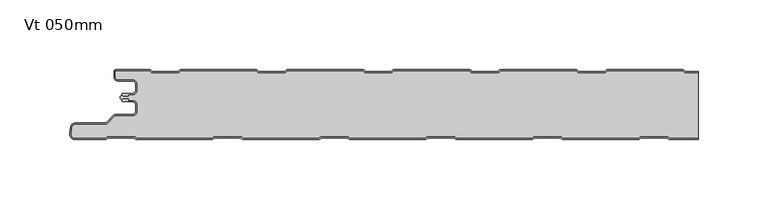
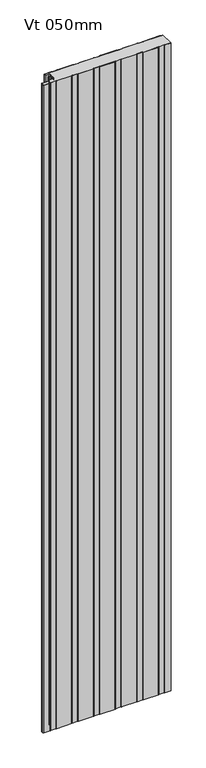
"""IFC4 building model written with IfcOpenShell, lengths in millimetres: plate geometry, KIP-MEX-KSS-1067-R19-CP-Vt-SL_SL : Vt 050mm."""

from ifc_helpers import new_model, si_unit, point, frame, frame_2d, origin, origin_with_axes, place, context, project, spatial, polyline, circle_curve, trimmed, segment, composite_curve, outline, extrude, source, transform, mapped, element, save
from ifc_brep_helpers import plane_surface, cylinder_surface, revolved_surface, advanced_brep


def vt_050mm_9e8c6ad0(model_context):
    return source(origin(), model_context, "Body", "SolidModel", [
        extrude(outline(composite_curve([segment(polyline([(-205.4683, -21.670875), (-206.4999998, -20.6391751), (-206.4999998, -19.0328392), (-205.4686882, -18.0015275)]), True, "CONTINUOUS"), segment(trimmed(circle_curve(frame_2d((-204.468691, -18.0015216)), 0.9999972), [point((-205.4686882, -18.0015275))], [point((-204.468691, -19.0015188))], True, "CARTESIAN"), True, "CONTINUOUS"), segment(polyline([(-204.468691, -19.0015188), (-200.4684873, -19.0015188), (-200.4684873, -18.0015243), (-197.7762775, -18.0015243)]), True, "CONTINUOUS"), segment(trimmed(circle_curve(frame_2d((-197.7762775, -14.7015286)), 3.2999957), [point((-197.7762775, -18.0015243))], [point((-194.4762818, -14.7015286))], True, "CARTESIAN"), True, "CONTINUOUS"), segment(polyline([(-194.4762818, -14.7015286), (-194.4762818, -10.3015374)]), True, "CONTINUOUS"), segment(trimmed(circle_curve(frame_2d((-197.7762777, -10.3015374)), 3.2999959), [point((-194.4762818, -10.3015374))], [point((-197.7762777, -7.0015415))], True, "CARTESIAN"), True, "CONTINUOUS"), segment(polyline([(-197.7762777, -7.0015415), (-208.1962562, -7.0015415)]), True, "CONTINUOUS"), segment(trimmed(circle_curve(frame_2d((-208.1962562, -5.2315473)), 1.7699942), [point((-208.1962562, -7.0015415))], [point((-209.9662504, -5.2315473))], False, "CARTESIAN"), True, "CONTINUOUS"), segment(polyline([(-209.9662504, -5.2315473), (-209.9662504, -1.0), (-185.4659738, -1.0), (-184.0803312, -2.2002391), (-164.7051649, -2.2002391), (-163.3195319, -1.0000084), (-109.2661165, -1.0000084), (-107.8804836, -2.2002391), (-88.5053173, -2.2002391), (-87.1196843, -1.0000084), (-33.0662689, -1.0000084), (-31.680636, -2.2002391), (-12.3054697, -2.2002391), (-10.9198367, -1.0000084), (43.1335787, -1.0000084), (44.5192116, -2.2002391), (63.8943779, -2.2002391), (65.2800109, -1.0000084), (119.3334263, -1.0000084), (120.7190592, -2.2002391), (140.0942255, -2.2002391), (141.4798585, -1.0000084), (195.5332739, -1.0000084), (196.9189068, -2.2002391), (206.4999998, -2.2002391), (206.4999998, -48.9948589), (186.1405442, -48.9948589), (184.9403135, -47.7946282), (165.220901, -47.7946282), (164.0206703, -48.9948589), (109.9405385, -48.9948589), (108.7403078, -47.7946282), (89.0208953, -47.7946282), (87.8206646, -48.9948589), (33.7405328, -48.9948589), (32.5403021, -47.7946282), (12.8208896, -47.7946282), (11.6206589, -48.9948589), (-42.4594729, -48.9948589), (-43.6597036, -47.7946282), (-63.3791161, -47.7946282), (-64.5793468, -48.9948589), (-118.6594786, -48.9948589), (-119.8597093, -47.7946282), (-139.5791218, -47.7946282), (-140.7793525, -48.9948589), (-194.8594843, -48.9948589), (-196.059715, -47.7946282), (-215.7791275, -47.7946282), (-216.979096, -48.9945967), (-238.9521175, -48.9945967)]), True, "CONTINUOUS"), segment(trimmed(circle_curve(frame_2d((-238.9521175, -46.4243575)), 2.5702393), [point((-238.9521175, -48.9945967))], [point((-241.5125697, -46.2002718))], False, "CARTESIAN"), True, "CONTINUOUS"), segment(polyline([(-241.5125697, -46.2002718), (-241.0765707, -41.2184509)]), True, "CONTINUOUS"), segment(trimmed(circle_curve(frame_2d((-238.4198391, -41.6998415)), 2.6999926), [point((-241.0765707, -41.2184509))], [point((-238.4198391, -38.9998489))], False, "CARTESIAN"), True, "CONTINUOUS"), segment(polyline([(-238.4198391, -38.9998489), (-216.3247094, -38.9998489), (-210.8226383, -33.4977778)]), True, "CONTINUOUS"), segment(trimmed(circle_curve(frame_2d((-209.6205606, -34.6998555)), 1.6999946), [point((-210.8226383, -33.4977778))], [point((-209.6205606, -32.9998609))], False, "CARTESIAN"), True, "CONTINUOUS"), segment(polyline([(-209.6205606, -32.9998609), (-197.8096715, -32.9998609)]), True, "CONTINUOUS"), segment(trimmed(circle_curve(frame_2d((-197.8096715, -29.6498656)), 3.3499953), [point((-197.8096715, -32.9998609))], [point((-194.4596762, -29.6498656))], True, "CARTESIAN"), True, "CONTINUOUS"), segment(polyline([(-194.4596762, -29.6498656), (-194.4596762, -25.2498744)]), True, "CONTINUOUS"), segment(trimmed(circle_curve(frame_2d((-197.8096715, -25.2498744)), 3.3499953), [point((-194.4596762, -25.2498744))], [point((-197.8096715, -21.8998791))], True, "CARTESIAN"), True, "CONTINUOUS"), segment(polyline([(-197.8096715, -21.8998791), (-200.5087826, -21.8998791), (-200.5087826, -20.5014003), (-204.267176, -20.5014003)]), True, "CONTINUOUS"), segment(trimmed(circle_curve(frame_2d((-204.2686906, -21.7013969)), 1.1999976), [point((-204.267176, -20.5014003))], [point((-205.4683, -21.670875))], True, "CARTESIAN"), True, "CONTINUOUS")], self_intersect=False)), origin_with_axes(), (0.0, 0.0, 1.0), 2400.0),
        advanced_brep(
        [(-204.468691, -17.0015159, 2400.0), (-205.4686883, -18.0015191, 2400.0), (-204.468691, -19.0015105, 2400.0), (-200.4684874, -19.0015105, 2400.0), (-200.4684874, -18.0015159, 2400.0), (-197.7762776, -18.0015159, 2400.0), (-194.4762819, -14.7015202, 2400.0), (-194.4762819, -10.301529, 2400.0), (-197.7762774, -7.0015335, 2400.0), (-208.1962563, -7.0015335, 2400.0), (-209.9662505, -5.2315393, 2400.0), (-209.9662505, -0.9999916, 2400.0), (-185.4659738, -0.9999916, 2400.0), (-184.0803312, -2.2002307, 2400.0), (-164.7051649, -2.2002307, 2400.0), (-163.319532, -1.0, 2400.0), (-109.2661166, -1.0, 2400.0), (-107.8804836, -2.2002307, 2400.0), (-88.5053173, -2.2002307, 2400.0), (-87.1196844, -1.0, 2400.0), (-33.066269, -1.0, 2400.0), (-31.680636, -2.2002307, 2400.0), (-12.3054697, -2.2002307, 2400.0), (-10.9198368, -1.0, 2400.0), (43.1335786, -1.0, 2400.0), (44.5192116, -2.2002307, 2400.0), (63.8943779, -2.2002307, 2400.0), (65.2800108, -1.0, 2400.0), (119.3334262, -1.0, 2400.0), (120.7190592, -2.2002307, 2400.0), (140.0942255, -2.2002307, 2400.0), (141.4798584, -1.0, 2400.0), (195.5332738, -1.0, 2400.0), (196.9189068, -2.2002307, 2400.0), (206.4999998, -2.2002307, 2400.0), (206.4999998, -1.2002307, 2400.0), (197.2917872, -1.2002307, 2400.0), (196.3007396, -0.3417885, 2400.0), (195.3841227, 0.0, 2400.0), (141.6290096, 0.0, 2400.0), (140.7123927, -0.3417885, 2400.0), (139.7213451, -1.2002307, 2400.0), (121.0919396, -1.2002307, 2400.0), (120.100892, -0.3417885, 2400.0), (119.1842751, 0.0, 2400.0), (65.429162, 0.0, 2400.0), (64.5125451, -0.3417885, 2400.0), (63.5214975, -1.2002307, 2400.0), (44.892092, -1.2002307, 2400.0), (43.9010444, -0.3417885, 2400.0), (42.9844275, 0.0, 2400.0), (-10.7706856, 0.0, 2400.0), (-11.6873025, -0.3417885, 2400.0), (-12.6783501, -1.2002307, 2400.0), (-31.3077556, -1.2002307, 2400.0), (-32.2988032, -0.3417885, 2400.0), (-33.2154201, 0.0, 2400.0), (-86.9705332, 0.0, 2400.0), (-87.8871501, -0.3417885, 2400.0), (-88.8781977, -1.2002307, 2400.0), (-107.5076032, -1.2002307, 2400.0), (-108.4986508, -0.3417885, 2400.0), (-109.4152677, 0.0, 2400.0), (-163.1703808, 0.0, 2400.0), (-164.0869977, -0.3417885, 2400.0), (-165.0780453, -1.2002307, 2400.0), (-183.7074508, -1.2002307, 2400.0), (-184.6984984, -0.3417885, 2400.0), (-185.6152067, 0.0, 2400.0), (-209.5662543, 8.4e-06, 2400.0), (-210.9662505, -1.3999878, 2400.0), (-210.9662505, -5.2315393, 2400.0), (-208.1962563, -8.0015335, 2400.0), (-197.7762774, -8.0015335, 2400.0), (-195.4762819, -10.301529, 2400.0), (-195.4762819, -14.7015202, 2400.0), (-197.7762776, -17.0015159, 2400.0), (-204.468691, -17.0015159, 0.0), (-197.7762776, -17.0015159, 0.0), (-195.4762819, -14.7015202, 0.0), (-195.4762819, -10.301529, 0.0), (-197.7762774, -8.0015335, 0.0), (-208.1962563, -8.0015335, 0.0), (-210.9662505, -5.2315393, 0.0), (-210.9662505, -1.3999878, 0.0), (-209.5662543, 8.4e-06, 0.0), (-185.6151153, 8.4e-06, 0.0), (-184.6984984, -0.3417885, 0.0), (-183.7074508, -1.2002307, 0.0), (-165.0780453, -1.2002307, 0.0), (-164.0869977, -0.3417885, 0.0), (-163.1703808, 0.0, 0.0), (-109.4152677, 0.0, 0.0), (-108.4986508, -0.3417885, 0.0), (-107.5076032, -1.2002307, 0.0), (-88.8781977, -1.2002307, 0.0), (-87.8871501, -0.3417885, 0.0), (-86.9705332, 0.0, 0.0), (-33.2154201, 0.0, 0.0), (-32.2988032, -0.3417885, 0.0), (-31.3077556, -1.2002307, 0.0), (-12.6783501, -1.2002307, 0.0), (-11.6873025, -0.3417885, 0.0), (-10.7706856, 0.0, 0.0), (42.9844275, 0.0, 0.0), (43.9010444, -0.3417885, 0.0), (44.892092, -1.2002307, 0.0), (63.5214975, -1.2002307, 0.0), (64.5125451, -0.3417885, 0.0), (65.429162, 0.0, 0.0), (119.1842751, 0.0, 0.0), (120.100892, -0.3417885, 0.0), (121.0919396, -1.2002307, 0.0), (139.7213451, -1.2002307, 0.0), (140.7123927, -0.3417885, 0.0), (141.6290096, 0.0, 0.0), (195.3841227, 0.0, 0.0), (196.3007396, -0.3417885, 0.0), (197.2917872, -1.2002307, 0.0), (206.4999998, -1.2002307, 0.0), (206.4999998, -2.2002307, 0.0), (196.9189068, -2.2002307, 0.0), (195.5332738, -1.0, 0.0), (141.4798584, -1.0, 0.0), (140.0942255, -2.2002307, 0.0), (120.7190592, -2.2002307, 0.0), (119.3334262, -1.0, 0.0), (65.2800108, -1.0, 0.0), (63.8943779, -2.2002307, 0.0), (44.5192116, -2.2002307, 0.0), (43.1335786, -1.0, 0.0), (-10.9198368, -1.0, 0.0), (-12.3054697, -2.2002307, 0.0), (-31.680636, -2.2002307, 0.0), (-33.066269, -1.0, 0.0), (-87.1196844, -1.0, 0.0), (-88.5053173, -2.2002307, 0.0), (-107.8804836, -2.2002307, 0.0), (-109.2661166, -1.0, 0.0), (-163.319532, -1.0, 0.0), (-164.7051649, -2.2002307, 0.0), (-184.0803312, -2.2002307, 0.0), (-185.4659738, -0.9999916, 0.0), (-209.9662505, -0.9999916, 0.0), (-209.9662505, -5.2315393, 0.0), (-208.1962563, -7.0015335, 0.0), (-197.7762774, -7.0015335, 0.0), (-194.4762819, -10.301529, 0.0), (-194.4762819, -14.7015202, 0.0), (-197.7762776, -18.0015159, 0.0), (-200.4684874, -18.0015159, 0.0), (-200.4684874, -19.0015105, 0.0), (-204.468691, -19.0015105, 0.0), (-205.4686882, -18.0015192, 0.0)],
        [
            (0, 1, circle_curve(frame((-204.468691, -18.0015132, 2400.0), z_axis=(0.0, 0.0, 1.0), x_axis=(1.0, 0.0, 0.0)), 0.9999973)),
            (1, 2, circle_curve(frame((-204.468691, -18.0015133, 2400.0), z_axis=(0.0, 0.0, 1.0), x_axis=(1.0, 0.0, 0.0)), 0.9999972)),
            (2, 3),
            (3, 4),
            (4, 5),
            (5, 6, circle_curve(frame((-197.7762776, -14.7015202, 2400.0), z_axis=(0.0, 0.0, 1.0), x_axis=(1.0, 0.0, 0.0)), 3.2999957)),
            (6, 7),
            (7, 8, circle_curve(frame((-197.7762774, -10.301529, 2400.0), z_axis=(0.0, 0.0, 1.0), x_axis=(1.0, 0.0, 0.0)), 3.2999955)),
            (8, 9),
            (9, 10, circle_curve(frame((-208.1962563, -5.2315393, 2400.0), z_axis=(0.0, 0.0, -1.0), x_axis=(1.0, 0.0, 0.0)), 1.7699942)),
            (10, 11),
            (11, 12),
            (12, 13),
            (13, 14),
            (14, 15),
            (15, 16),
            (16, 17),
            (17, 18),
            (18, 19),
            (19, 20),
            (20, 21),
            (21, 22),
            (22, 23),
            (23, 24),
            (24, 25),
            (25, 26),
            (26, 27),
            (27, 28),
            (28, 29),
            (29, 30),
            (30, 31),
            (31, 32),
            (32, 33),
            (33, 34),
            (34, 35),
            (35, 36),
            (36, 37),
            (37, 38, circle_curve(frame((195.3841227, -1.3999972, 2400.0), z_axis=(0.0, 0.0, 1.0), x_axis=(1.0, 0.0, 0.0)), 1.3999972)),
            (38, 39),
            (39, 40, circle_curve(frame((141.6290096, -1.3999972, 2400.0), z_axis=(0.0, 0.0, 1.0), x_axis=(1.0, 0.0, 0.0)), 1.3999972)),
            (40, 41),
            (41, 42),
            (42, 43),
            (43, 44, circle_curve(frame((119.1842751, -1.3999972, 2400.0), z_axis=(0.0, 0.0, 1.0), x_axis=(1.0, 0.0, 0.0)), 1.3999972)),
            (44, 45),
            (45, 46, circle_curve(frame((65.429162, -1.3999972, 2400.0), z_axis=(0.0, 0.0, 1.0), x_axis=(1.0, 0.0, 0.0)), 1.3999972)),
            (46, 47),
            (47, 48),
            (48, 49),
            (49, 50, circle_curve(frame((42.9844275, -1.3999972, 2400.0), z_axis=(0.0, 0.0, 1.0), x_axis=(1.0, 0.0, 0.0)), 1.3999972)),
            (50, 51),
            (51, 52, circle_curve(frame((-10.7706856, -1.3999972, 2400.0), z_axis=(0.0, 0.0, 1.0), x_axis=(1.0, 0.0, 0.0)), 1.3999972)),
            (52, 53),
            (53, 54),
            (54, 55),
            (55, 56, circle_curve(frame((-33.2154201, -1.3999972, 2400.0), z_axis=(0.0, 0.0, 1.0), x_axis=(1.0, 0.0, 0.0)), 1.3999972)),
            (56, 57),
            (57, 58, circle_curve(frame((-86.9705332, -1.3999972, 2400.0), z_axis=(0.0, 0.0, 1.0), x_axis=(1.0, 0.0, 0.0)), 1.3999972)),
            (58, 59),
            (59, 60),
            (60, 61),
            (61, 62, circle_curve(frame((-109.4152677, -1.3999972, 2400.0), z_axis=(0.0, 0.0, 1.0), x_axis=(1.0, 0.0, 0.0)), 1.3999972)),
            (62, 63),
            (63, 64, circle_curve(frame((-163.1703808, -1.3999972, 2400.0), z_axis=(0.0, 0.0, 1.0), x_axis=(1.0, 0.0, 0.0)), 1.3999972)),
            (64, 65),
            (65, 66),
            (66, 67),
            (67, 68, circle_curve(frame((-185.6151153, -1.3999972, 2400.0), z_axis=(0.0, 0.0, 1.0), x_axis=(1.0, 0.0, 0.0)), 1.3999972)),
            (68, 69),
            (69, 70, circle_curve(frame((-209.5662543, -1.3999878, 2400.0), z_axis=(0.0, 0.0, 1.0), x_axis=(1.0, 0.0, 0.0)), 1.3999962)),
            (70, 71),
            (71, 72, circle_curve(frame((-208.1962563, -5.2315393, 2400.0), z_axis=(0.0, 0.0, 1.0), x_axis=(1.0, 0.0, 0.0)), 2.7699942)),
            (72, 73),
            (73, 74, circle_curve(frame((-197.7762774, -10.301529, 2400.0), z_axis=(0.0, 0.0, -1.0), x_axis=(1.0, 0.0, 0.0)), 2.2999955)),
            (74, 75),
            (75, 76, circle_curve(frame((-197.7762776, -14.7015202, 2400.0), z_axis=(0.0, 0.0, -1.0), x_axis=(1.0, 0.0, 0.0)), 2.2999957)),
            (76, 0),
            (77, 78),
            (78, 79, circle_curve(frame((-197.7762776, -14.7015202, 0.0), z_axis=(0.0, 0.0, 1.0), x_axis=(1.0, 0.0, 0.0)), 2.2999957)),
            (79, 80),
            (80, 81, circle_curve(frame((-197.7762774, -10.301529, 0.0), z_axis=(0.0, 0.0, 1.0), x_axis=(1.0, 0.0, 0.0)), 2.2999955)),
            (81, 82),
            (82, 83, circle_curve(frame((-208.1962563, -5.2315393, 0.0), z_axis=(0.0, 0.0, -1.0), x_axis=(1.0, 0.0, 0.0)), 2.7699942)),
            (83, 84),
            (84, 85, circle_curve(frame((-209.5662543, -1.3999878, 0.0), z_axis=(0.0, 0.0, -1.0), x_axis=(1.0, 0.0, 0.0)), 1.3999962)),
            (85, 86),
            (86, 87, circle_curve(frame((-185.6151153, -1.3999972, 0.0), z_axis=(0.0, 0.0, -1.0), x_axis=(1.0, 0.0, 0.0)), 1.3999972)),
            (87, 88),
            (88, 89),
            (89, 90),
            (90, 91, circle_curve(frame((-163.1703808, -1.3999972, 0.0), z_axis=(0.0, 0.0, -1.0), x_axis=(1.0, 0.0, 0.0)), 1.3999972)),
            (91, 92),
            (92, 93, circle_curve(frame((-109.4152677, -1.3999972, 0.0), z_axis=(0.0, 0.0, -1.0), x_axis=(1.0, 0.0, 0.0)), 1.3999972)),
            (93, 94),
            (94, 95),
            (95, 96),
            (96, 97, circle_curve(frame((-86.9705332, -1.3999972, 0.0), z_axis=(0.0, 0.0, -1.0), x_axis=(1.0, 0.0, 0.0)), 1.3999972)),
            (97, 98),
            (98, 99, circle_curve(frame((-33.2154201, -1.3999972, 0.0), z_axis=(0.0, 0.0, -1.0), x_axis=(1.0, 0.0, 0.0)), 1.3999972)),
            (99, 100),
            (100, 101),
            (101, 102),
            (102, 103, circle_curve(frame((-10.7706856, -1.3999972, 0.0), z_axis=(0.0, 0.0, -1.0), x_axis=(1.0, 0.0, 0.0)), 1.3999972)),
            (103, 104),
            (104, 105, circle_curve(frame((42.9844275, -1.3999972, 0.0), z_axis=(0.0, 0.0, -1.0), x_axis=(1.0, 0.0, 0.0)), 1.3999972)),
            (105, 106),
            (106, 107),
            (107, 108),
            (108, 109, circle_curve(frame((65.429162, -1.3999972, 0.0), z_axis=(0.0, 0.0, -1.0), x_axis=(1.0, 0.0, 0.0)), 1.3999972)),
            (109, 110),
            (110, 111, circle_curve(frame((119.1842751, -1.3999972, 0.0), z_axis=(0.0, 0.0, -1.0), x_axis=(1.0, 0.0, 0.0)), 1.3999972)),
            (111, 112),
            (112, 113),
            (113, 114),
            (114, 115, circle_curve(frame((141.6290096, -1.3999972, 0.0), z_axis=(0.0, 0.0, -1.0), x_axis=(1.0, 0.0, 0.0)), 1.3999972)),
            (115, 116),
            (116, 117, circle_curve(frame((195.3841227, -1.3999972, 0.0), z_axis=(0.0, 0.0, -1.0), x_axis=(1.0, 0.0, 0.0)), 1.3999972)),
            (117, 118),
            (118, 119),
            (119, 120),
            (120, 121),
            (121, 122),
            (122, 123),
            (123, 124),
            (124, 125),
            (125, 126),
            (126, 127),
            (127, 128),
            (128, 129),
            (129, 130),
            (130, 131),
            (131, 132),
            (132, 133),
            (133, 134),
            (134, 135),
            (135, 136),
            (136, 137),
            (137, 138),
            (138, 139),
            (139, 140),
            (140, 141),
            (141, 142),
            (142, 143),
            (143, 144),
            (144, 145, circle_curve(frame((-208.1962563, -5.2315393, 0.0), z_axis=(0.0, 0.0, 1.0), x_axis=(1.0, 0.0, 0.0)), 1.7699942)),
            (145, 146),
            (146, 147, circle_curve(frame((-197.7762774, -10.301529, 0.0), z_axis=(0.0, 0.0, -1.0), x_axis=(1.0, 0.0, 0.0)), 3.2999955)),
            (147, 148),
            (148, 149, circle_curve(frame((-197.7762776, -14.7015202, 0.0), z_axis=(0.0, 0.0, -1.0), x_axis=(1.0, 0.0, 0.0)), 3.2999957)),
            (149, 150),
            (150, 151),
            (151, 152),
            (152, 153, circle_curve(frame((-204.468691, -18.0015133, 0.0), z_axis=(0.0, 0.0, -1.0), x_axis=(1.0, 0.0, 0.0)), 0.9999972)),
            (153, 77, circle_curve(frame((-204.468691, -18.0015132, 0.0), z_axis=(0.0, 0.0, -1.0), x_axis=(1.0, 0.0, 0.0)), 0.9999973)),
            (76, 78),
            (77, 0),
            (75, 79),
            (74, 80),
            (73, 81),
            (72, 82),
            (71, 83),
            (70, 84),
            (69, 85),
            (68, 86),
            (67, 87),
            (66, 88),
            (65, 89),
            (64, 90),
            (63, 91),
            (62, 92),
            (61, 93),
            (60, 94),
            (59, 95),
            (58, 96),
            (57, 97),
            (56, 98),
            (55, 99),
            (54, 100),
            (53, 101),
            (52, 102),
            (51, 103),
            (50, 104),
            (49, 105),
            (48, 106),
            (47, 107),
            (46, 108),
            (45, 109),
            (44, 110),
            (43, 111),
            (42, 112),
            (41, 113),
            (40, 114),
            (39, 115),
            (38, 116),
            (37, 117),
            (36, 118),
            (35, 119),
            (120, 34),
            (33, 121),
            (32, 122),
            (31, 123),
            (30, 124),
            (29, 125),
            (28, 126),
            (27, 127),
            (26, 128),
            (25, 129),
            (24, 130),
            (23, 131),
            (22, 132),
            (21, 133),
            (20, 134),
            (19, 135),
            (18, 136),
            (17, 137),
            (16, 138),
            (15, 139),
            (14, 140),
            (13, 141),
            (12, 142),
            (11, 143),
            (10, 144),
            (9, 145),
            (8, 146),
            (7, 147),
            (6, 148),
            (5, 149),
            (4, 150),
            (3, 151),
            (2, 152),
            (1, 153),
        ],
        [
            plane_surface(frame((326.9000002, 0.0, 2400.0), z_axis=(0.0, 0.0, 1.0), x_axis=(0.0, 1.0, 0.0))),
            plane_surface(frame((326.9000002, 0.0, 0.0), z_axis=(0.0, 0.0, -1.0), x_axis=(0.0, 1.0, 0.0))),
            plane_surface(frame((-204.468691, -17.0015159, 2400.0), z_axis=(0.0, 1.0, 0.0), x_axis=(0.0, 0.0, -1.0))),
            revolved_surface(polyline([(-195.47628189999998, -14.7015202, 0.0), (-195.47628189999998, -14.7015202, 2400.0)]), (-197.7762776, -14.7015202, 2400.0), (0.0, 0.0, -1.0)),
            plane_surface(frame((-195.4762819, -14.7015202, 2400.0), z_axis=(-1.0, 0.0, 0.0), x_axis=(0.0, 0.0, -1.0))),
            revolved_surface(polyline([(-195.4762819, -10.301529, 0.0), (-195.4762819, -10.301529, 2400.0)]), (-197.7762774, -10.301529, 2400.0), (0.0, 0.0, -1.0)),
            plane_surface(frame((-197.7762774, -8.0015335, 2400.0), z_axis=(0.0, -1.0, 0.0), x_axis=(0.0, 0.0, -1.0))),
            cylinder_surface(frame((-208.1962563, -5.2315393, 2400.0), z_axis=(0.0, 0.0, 1.0), x_axis=(1.0, 0.0, 0.0)), 2.7699942),
            plane_surface(frame((-210.9662505, -5.2315393, 2400.0), z_axis=(-1.0, 0.0, 0.0), x_axis=(0.0, 0.0, -1.0))),
            cylinder_surface(frame((-209.5662543, -1.3999878, 2400.0), z_axis=(0.0, 0.0, 1.0), x_axis=(1.0, 0.0, 0.0)), 1.3999962),
            plane_surface(frame((-209.5662543, 8.4e-06, 2400.0), z_axis=(0.0, 1.0, 0.0), x_axis=(0.0, 0.0, -1.0))),
            cylinder_surface(frame((-185.6151153, -1.3999972, 2400.0), z_axis=(0.0, 0.0, 1.0), x_axis=(1.0, 0.0, 0.0)), 1.3999972),
            plane_surface(frame((-184.6984984, -0.3417885, 2400.0), z_axis=(0.6547276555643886, 0.755864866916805, 0.0), x_axis=(0.0, 0.0, -1.0))),
            plane_surface(frame((-174.3927481, -1.2002307, 2400.0), z_axis=(0.0, 1.0, 0.0), x_axis=(0.0, 0.0, -1.0))),
            plane_surface(frame((-165.0780453, -1.2002307, 2400.0), z_axis=(-0.6547276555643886, 0.755864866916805, 0.0), x_axis=(0.0, 0.0, -1.0))),
            cylinder_surface(frame((-163.1703808, -1.3999972, 2400.0), z_axis=(0.0, 0.0, 1.0), x_axis=(1.0, 0.0, 0.0)), 1.3999972),
            plane_surface(frame((-163.1703808, 0.0, 2400.0), z_axis=(0.0, 1.0, 0.0), x_axis=(0.0, 0.0, -1.0))),
            cylinder_surface(frame((-109.4152677, -1.3999972, 2400.0), z_axis=(0.0, 0.0, 1.0), x_axis=(1.0, 0.0, 0.0)), 1.3999972),
            plane_surface(frame((-108.4986508, -0.3417885, 2400.0), z_axis=(0.6547276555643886, 0.755864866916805, 0.0), x_axis=(0.0, 0.0, -1.0))),
            plane_surface(frame((-98.1929005, -1.2002307, 2400.0), z_axis=(0.0, 1.0, 0.0), x_axis=(0.0, 0.0, -1.0))),
            plane_surface(frame((-88.8781977, -1.2002307, 2400.0), z_axis=(-0.6547276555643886, 0.755864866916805, 0.0), x_axis=(0.0, 0.0, -1.0))),
            cylinder_surface(frame((-86.9705332, -1.3999972, 2400.0), z_axis=(0.0, 0.0, 1.0), x_axis=(1.0, 0.0, 0.0)), 1.3999972),
            plane_surface(frame((-86.9705332, 0.0, 2400.0), z_axis=(0.0, 1.0, 0.0), x_axis=(0.0, 0.0, -1.0))),
            cylinder_surface(frame((-33.2154201, -1.3999972, 2400.0), z_axis=(0.0, 0.0, 1.0), x_axis=(1.0, 0.0, 0.0)), 1.3999972),
            plane_surface(frame((-32.2988032, -0.3417885, 2400.0), z_axis=(0.6547276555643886, 0.755864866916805, 0.0), x_axis=(0.0, 0.0, -1.0))),
            plane_surface(frame((-21.9930529, -1.2002307, 2400.0), z_axis=(0.0, 1.0, 0.0), x_axis=(0.0, 0.0, -1.0))),
            plane_surface(frame((-12.6783501, -1.2002307, 2400.0), z_axis=(-0.6547276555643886, 0.755864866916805, 0.0), x_axis=(0.0, 0.0, -1.0))),
            cylinder_surface(frame((-10.7706856, -1.3999972, 2400.0), z_axis=(0.0, 0.0, 1.0), x_axis=(1.0, 0.0, 0.0)), 1.3999972),
            plane_surface(frame((-10.7706856, 0.0, 2400.0), z_axis=(0.0, 1.0, 0.0), x_axis=(0.0, 0.0, -1.0))),
            cylinder_surface(frame((42.9844275, -1.3999972, 2400.0), z_axis=(0.0, 0.0, 1.0), x_axis=(1.0, 0.0, 0.0)), 1.3999972),
            plane_surface(frame((43.9010444, -0.3417885, 2400.0), z_axis=(0.6547276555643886, 0.755864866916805, 0.0), x_axis=(0.0, 0.0, -1.0))),
            plane_surface(frame((54.2067947, -1.2002307, 2400.0), z_axis=(0.0, 1.0, 0.0), x_axis=(0.0, 0.0, -1.0))),
            plane_surface(frame((63.5214975, -1.2002307, 2400.0), z_axis=(-0.6547276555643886, 0.755864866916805, 0.0), x_axis=(0.0, 0.0, -1.0))),
            cylinder_surface(frame((65.429162, -1.3999972, 2400.0), z_axis=(0.0, 0.0, 1.0), x_axis=(1.0, 0.0, 0.0)), 1.3999972),
            plane_surface(frame((65.429162, 0.0, 2400.0), z_axis=(0.0, 1.0, 0.0), x_axis=(0.0, 0.0, -1.0))),
            cylinder_surface(frame((119.1842751, -1.3999972, 2400.0), z_axis=(0.0, 0.0, 1.0), x_axis=(1.0, 0.0, 0.0)), 1.3999972),
            plane_surface(frame((120.100892, -0.3417885, 2400.0), z_axis=(0.6547276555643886, 0.755864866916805, 0.0), x_axis=(0.0, 0.0, -1.0))),
            plane_surface(frame((130.4066423, -1.2002307, 2400.0), z_axis=(0.0, 1.0, 0.0), x_axis=(0.0, 0.0, -1.0))),
            plane_surface(frame((139.7213451, -1.2002307, 2400.0), z_axis=(-0.6547276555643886, 0.755864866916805, 0.0), x_axis=(0.0, 0.0, -1.0))),
            cylinder_surface(frame((141.6290096, -1.3999972, 2400.0), z_axis=(0.0, 0.0, 1.0), x_axis=(1.0, 0.0, 0.0)), 1.3999972),
            plane_surface(frame((141.6290096, 0.0, 2400.0), z_axis=(0.0, 1.0, 0.0), x_axis=(0.0, 0.0, -1.0))),
            cylinder_surface(frame((195.3841227, -1.3999972, 2400.0), z_axis=(0.0, 0.0, 1.0), x_axis=(1.0, 0.0, 0.0)), 1.3999972),
            plane_surface(frame((196.3007396, -0.3417885, 2400.0), z_axis=(0.6547276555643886, 0.755864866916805, 0.0), x_axis=(0.0, 0.0, -1.0))),
            plane_surface(frame((206.6064899, -1.2002307, 2400.0), z_axis=(0.0, 1.0, 0.0), x_axis=(0.0, 0.0, -1.0))),
            plane_surface(frame((216.2940731, -2.2002307, 2400.0), z_axis=(0.0, -1.0, 0.0), x_axis=(0.0, 0.0, -1.0))),
            plane_surface(frame((196.9189068, -2.2002307, 2400.0), z_axis=(-0.6547276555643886, -0.755864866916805, 0.0), x_axis=(0.0, 0.0, -1.0))),
            plane_surface(frame((195.5332738, -1.0, 2400.0), z_axis=(0.0, -1.0, 0.0), x_axis=(0.0, 0.0, -1.0))),
            plane_surface(frame((141.4798584, -1.0, 2400.0), z_axis=(0.6547276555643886, -0.755864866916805, 0.0), x_axis=(0.0, 0.0, -1.0))),
            plane_surface(frame((140.0942255, -2.2002307, 2400.0), z_axis=(0.0, -1.0, 0.0), x_axis=(0.0, 0.0, -1.0))),
            plane_surface(frame((120.7190592, -2.2002307, 2400.0), z_axis=(-0.6547276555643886, -0.755864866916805, 0.0), x_axis=(0.0, 0.0, -1.0))),
            plane_surface(frame((119.3334262, -1.0, 2400.0), z_axis=(0.0, -1.0, 0.0), x_axis=(0.0, 0.0, -1.0))),
            plane_surface(frame((65.2800108, -1.0, 2400.0), z_axis=(0.6547276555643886, -0.755864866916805, 0.0), x_axis=(0.0, 0.0, -1.0))),
            plane_surface(frame((63.8943779, -2.2002307, 2400.0), z_axis=(0.0, -1.0, 0.0), x_axis=(0.0, 0.0, -1.0))),
            plane_surface(frame((44.5192116, -2.2002307, 2400.0), z_axis=(-0.6547276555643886, -0.755864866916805, 0.0), x_axis=(0.0, 0.0, -1.0))),
            plane_surface(frame((43.1335786, -1.0, 2400.0), z_axis=(0.0, -1.0, 0.0), x_axis=(0.0, 0.0, -1.0))),
            plane_surface(frame((-10.9198368, -1.0, 2400.0), z_axis=(0.6547276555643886, -0.755864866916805, 0.0), x_axis=(0.0, 0.0, -1.0))),
            plane_surface(frame((-12.3054697, -2.2002307, 2400.0), z_axis=(0.0, -1.0, 0.0), x_axis=(0.0, 0.0, -1.0))),
            plane_surface(frame((-31.680636, -2.2002307, 2400.0), z_axis=(-0.6547276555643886, -0.755864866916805, 0.0), x_axis=(0.0, 0.0, -1.0))),
            plane_surface(frame((-33.066269, -1.0, 2400.0), z_axis=(0.0, -1.0, 0.0), x_axis=(0.0, 0.0, -1.0))),
            plane_surface(frame((-87.1196844, -1.0, 2400.0), z_axis=(0.6547276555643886, -0.755864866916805, 0.0), x_axis=(0.0, 0.0, -1.0))),
            plane_surface(frame((-88.5053173, -2.2002307, 2400.0), z_axis=(0.0, -1.0, 0.0), x_axis=(0.0, 0.0, -1.0))),
            plane_surface(frame((-107.8804836, -2.2002307, 2400.0), z_axis=(-0.6547276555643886, -0.755864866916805, 0.0), x_axis=(0.0, 0.0, -1.0))),
            plane_surface(frame((-109.2661166, -1.0, 2400.0), z_axis=(0.0, -1.0, 0.0), x_axis=(0.0, 0.0, -1.0))),
            plane_surface(frame((-163.319532, -1.0, 2400.0), z_axis=(0.6547276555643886, -0.755864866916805, 0.0), x_axis=(0.0, 0.0, -1.0))),
            plane_surface(frame((-164.7051649, -2.2002307, 2400.0), z_axis=(0.0, -1.0, 0.0), x_axis=(0.0, 0.0, -1.0))),
            plane_surface(frame((-184.0803312, -2.2002307, 2400.0), z_axis=(-0.6547276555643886, -0.755864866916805, 0.0), x_axis=(0.0, 0.0, -1.0))),
            plane_surface(frame((-185.4659738, -0.9999916, 2400.0), z_axis=(0.0, -1.0, 0.0), x_axis=(0.0, 0.0, -1.0))),
            plane_surface(frame((-209.9662505, -0.9999916, 2400.0), z_axis=(1.0, 0.0, 0.0), x_axis=(0.0, 0.0, -1.0))),
            revolved_surface(polyline([(-206.42626209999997, -5.2315393, 0.0), (-206.42626209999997, -5.2315393, 2400.0)]), (-208.1962563, -5.2315393, 2400.0), (0.0, 0.0, -1.0)),
            plane_surface(frame((-208.1962563, -7.0015335, 2400.0), z_axis=(0.0, 1.0, 0.0), x_axis=(0.0, 0.0, -1.0))),
            cylinder_surface(frame((-197.7762774, -10.301529, 2400.0), z_axis=(0.0, 0.0, 1.0), x_axis=(1.0, 0.0, 0.0)), 3.2999955),
            plane_surface(frame((-194.4762819, -10.301529, 2400.0), z_axis=(1.0, 0.0, 0.0), x_axis=(0.0, 0.0, -1.0))),
            cylinder_surface(frame((-197.7762776, -14.7015202, 2400.0), z_axis=(0.0, 0.0, 1.0), x_axis=(1.0, 0.0, 0.0)), 3.2999957),
            plane_surface(frame((-197.7762776, -18.0015159, 2400.0), z_axis=(0.0, -1.0, 0.0), x_axis=(0.0, 0.0, -1.0))),
            plane_surface(frame((-200.4684874, -18.0015159, 2400.0), z_axis=(1.0, 0.0, 0.0), x_axis=(0.0, 0.0, -1.0))),
            plane_surface(frame((-200.4684874, -19.0015105, 2400.0), z_axis=(0.0, -1.0, 0.0), x_axis=(0.0, 0.0, -1.0))),
            cylinder_surface(frame((-204.468691, -18.0015133, 2400.0), z_axis=(0.0, 0.0, 1.0), x_axis=(1.0, 0.0, 0.0)), 0.9999972),
            cylinder_surface(frame((-204.468691, -18.0015132, 2400.0), z_axis=(0.0, 0.0, 1.0), x_axis=(1.0, 0.0, 0.0)), 0.9999973),
            plane_surface(frame((206.4999998, -60.0, 2400.0), z_axis=(1.0, 0.0, 0.0), x_axis=(0.0, 0.0, -1.0))),
        ],
        [
            (0, [[1, 2, 3, 4, 5, 6, 7, 8, 9, 10, 11, 12, 13, 14, 15, 16, 17, 18, 19, 20, 21, 22, 23, 24, 25, 26, 27, 28, 29, 30, 31, 32, 33, 34, 35, 36, 37, 38, 39, 40, 41, 42, 43, 44, 45, 46, 47, 48, 49, 50, 51, 52, 53, 54, 55, 56, 57, 58, 59, 60, 61, 62, 63, 64, 65, 66, 67, 68, 69, 70, 71, 72, 73, 74, 75, 76, 77]]),
            (1, [[78, 79, 80, 81, 82, 83, 84, 85, 86, 87, 88, 89, 90, 91, 92, 93, 94, 95, 96, 97, 98, 99, 100, 101, 102, 103, 104, 105, 106, 107, 108, 109, 110, 111, 112, 113, 114, 115, 116, 117, 118, 119, 120, 121, 122, 123, 124, 125, 126, 127, 128, 129, 130, 131, 132, 133, 134, 135, 136, 137, 138, 139, 140, 141, 142, 143, 144, 145, 146, 147, 148, 149, 150, 151, 152, 153, 154]]),
            (2, [[155, -78, 156, -77]]),
            (3, [[157, -79, -155, -76]]),
            (4, [[158, -80, -157, -75]]),
            (5, [[159, -81, -158, -74]]),
            (6, [[160, -82, -159, -73]]),
            (7, [[161, -83, -160, -72]]),
            (8, [[162, -84, -161, -71]]),
            (9, [[163, -85, -162, -70]]),
            (10, [[164, -86, -163, -69]]),
            (11, [[165, -87, -164, -68]]),
            (12, [[166, -88, -165, -67]]),
            (13, [[167, -89, -166, -66]]),
            (14, [[168, -90, -167, -65]]),
            (15, [[169, -91, -168, -64]]),
            (16, [[170, -92, -169, -63]]),
            (17, [[171, -93, -170, -62]]),
            (18, [[172, -94, -171, -61]]),
            (19, [[173, -95, -172, -60]]),
            (20, [[174, -96, -173, -59]]),
            (21, [[175, -97, -174, -58]]),
            (22, [[176, -98, -175, -57]]),
            (23, [[177, -99, -176, -56]]),
            (24, [[178, -100, -177, -55]]),
            (25, [[179, -101, -178, -54]]),
            (26, [[180, -102, -179, -53]]),
            (27, [[181, -103, -180, -52]]),
            (28, [[182, -104, -181, -51]]),
            (29, [[183, -105, -182, -50]]),
            (30, [[184, -106, -183, -49]]),
            (31, [[185, -107, -184, -48]]),
            (32, [[186, -108, -185, -47]]),
            (33, [[187, -109, -186, -46]]),
            (34, [[188, -110, -187, -45]]),
            (35, [[189, -111, -188, -44]]),
            (36, [[190, -112, -189, -43]]),
            (37, [[191, -113, -190, -42]]),
            (38, [[192, -114, -191, -41]]),
            (39, [[193, -115, -192, -40]]),
            (40, [[194, -116, -193, -39]]),
            (41, [[195, -117, -194, -38]]),
            (42, [[196, -118, -195, -37]]),
            (43, [[-36, 197, -119, -196]]),
            (44, [[-121, 198, -34, 199]]),
            (45, [[200, -122, -199, -33]]),
            (46, [[201, -123, -200, -32]]),
            (47, [[202, -124, -201, -31]]),
            (48, [[203, -125, -202, -30]]),
            (49, [[204, -126, -203, -29]]),
            (50, [[205, -127, -204, -28]]),
            (51, [[206, -128, -205, -27]]),
            (52, [[207, -129, -206, -26]]),
            (53, [[208, -130, -207, -25]]),
            (54, [[209, -131, -208, -24]]),
            (55, [[210, -132, -209, -23]]),
            (56, [[211, -133, -210, -22]]),
            (57, [[212, -134, -211, -21]]),
            (58, [[213, -135, -212, -20]]),
            (59, [[214, -136, -213, -19]]),
            (60, [[215, -137, -214, -18]]),
            (61, [[216, -138, -215, -17]]),
            (62, [[217, -139, -216, -16]]),
            (63, [[218, -140, -217, -15]]),
            (64, [[219, -141, -218, -14]]),
            (65, [[220, -142, -219, -13]]),
            (66, [[221, -143, -220, -12]]),
            (67, [[222, -144, -221, -11]]),
            (68, [[223, -145, -222, -10]]),
            (69, [[224, -146, -223, -9]]),
            (70, [[225, -147, -224, -8]]),
            (71, [[226, -148, -225, -7]]),
            (72, [[227, -149, -226, -6]]),
            (73, [[228, -150, -227, -5]]),
            (74, [[229, -151, -228, -4]]),
            (75, [[230, -152, -229, -3]]),
            (76, [[231, -153, -230, -2]]),
            (77, [[-156, -154, -231, -1]]),
            (78, [[-198, -120, -197, -35]]),
        ],
    ),
        extrude(outline(composite_curve([segment(polyline([(-217.1415932, -50.0006394), (-238.9521175, -50.0006394)]), True, "CONTINUOUS"), segment(trimmed(circle_curve(frame_2d((-238.9521175, -46.4304001)), 3.5702393), [point((-238.9521175, -50.0006394))], [point((-242.5087619, -46.1191297))], False, "CARTESIAN"), True, "CONTINUOUS"), segment(polyline([(-242.5087619, -46.1191297), (-242.0690674, -41.0950831)]), True, "CONTINUOUS"), segment(trimmed(circle_curve(frame_2d((-238.4198391, -41.7058842)), 3.6999926), [point((-242.0690674, -41.0950831))], [point((-238.4198391, -38.0058916))], False, "CARTESIAN"), True, "CONTINUOUS"), segment(polyline([(-238.4198391, -38.0058916), (-217.2773995, -38.0058916)]), True, "CONTINUOUS"), segment(trimmed(circle_curve(frame_2d((-217.2773995, -36.7058942)), 1.2999974), [point((-217.2773995, -38.0058916))], [point((-216.3581626, -37.6251312))], True, "CARTESIAN"), True, "CONTINUOUS"), segment(polyline([(-216.3581626, -37.6251312), (-211.5297451, -32.7967137)]), True, "CONTINUOUS"), segment(trimmed(circle_curve(frame_2d((-209.6205606, -34.7058982)), 2.6999946), [point((-211.5297451, -32.7967137))], [point((-209.6205606, -32.0059036))], False, "CARTESIAN"), True, "CONTINUOUS"), segment(polyline([(-209.6205606, -32.0059036), (-197.8096715, -32.0059036)]), True, "CONTINUOUS"), segment(trimmed(circle_curve(frame_2d((-197.8096715, -29.6559083)), 2.3499953), [point((-197.8096715, -32.0059036))], [point((-195.4596762, -29.6559083))], True, "CARTESIAN"), True, "CONTINUOUS"), segment(polyline([(-195.4596762, -29.6559083), (-195.4596762, -25.2559171)]), True, "CONTINUOUS"), segment(trimmed(circle_curve(frame_2d((-197.8096715, -25.2559171)), 2.3499953), [point((-195.4596762, -25.2559171))], [point((-197.8096715, -22.9059218))], True, "CARTESIAN"), True, "CONTINUOUS"), segment(polyline([(-197.8096715, -22.9059218), (-204.3289777, -22.9059218)]), True, "CONTINUOUS"), segment(trimmed(circle_curve(frame_2d((-204.2686906, -21.7074396)), 1.1999976), [point((-204.3289777, -22.9059218))], [point((-205.4683, -21.6769177))], False, "CARTESIAN"), True, "CONTINUOUS"), segment(trimmed(circle_curve(frame_2d((-204.2686906, -21.7074396)), 1.1999976), [point((-205.4683, -21.6769177))], [point((-204.267176, -20.5074429))], False, "CARTESIAN"), True, "CONTINUOUS"), segment(polyline([(-204.267176, -20.5074429), (-200.5087826, -20.5074429), (-200.5087826, -21.9059218), (-197.8096715, -21.9059218)]), True, "CONTINUOUS"), segment(trimmed(circle_curve(frame_2d((-197.8096715, -25.2559171)), 3.3499953), [point((-197.8096715, -21.9059218))], [point((-194.4596762, -25.2559171))], False, "CARTESIAN"), True, "CONTINUOUS"), segment(polyline([(-194.4596762, -25.2559171), (-194.4596762, -29.6559083)]), True, "CONTINUOUS"), segment(trimmed(circle_curve(frame_2d((-197.8096715, -29.6559083)), 3.3499953), [point((-194.4596762, -29.6559083))], [point((-197.8096715, -33.0059036))], False, "CARTESIAN"), True, "CONTINUOUS"), segment(polyline([(-197.8096715, -33.0059036), (-209.6205606, -33.0059036)]), True, "CONTINUOUS"), segment(trimmed(circle_curve(frame_2d((-209.6205606, -34.7058982)), 1.6999946), [point((-209.6205606, -33.0059036))], [point((-210.8226383, -33.5038205))], True, "CARTESIAN"), True, "CONTINUOUS"), segment(polyline([(-210.8226383, -33.5038205), (-216.3247094, -39.0058916), (-238.4198391, -39.0058916)]), True, "CONTINUOUS"), segment(trimmed(circle_curve(frame_2d((-238.4198391, -41.7058842)), 2.6999926), [point((-238.4198391, -39.0058916))], [point((-241.0765707, -41.2244936))], True, "CARTESIAN"), True, "CONTINUOUS"), segment(polyline([(-241.0765707, -41.2244936), (-241.5125697, -46.2063145)]), True, "CONTINUOUS"), segment(trimmed(circle_curve(frame_2d((-238.9521175, -46.4304001)), 2.5702393), [point((-241.5125697, -46.2063145))], [point((-238.9521175, -49.0006394))], True, "CARTESIAN"), True, "CONTINUOUS"), segment(polyline([(-238.9521175, -49.0006394), (-216.979096, -49.0006394), (-215.7791275, -47.8006709), (-196.059715, -47.8006709), (-194.8594843, -49.0009016), (-140.7793525, -49.0009016), (-139.5791218, -47.8006709), (-119.8597093, -47.8006709), (-118.6594786, -49.0009016), (-64.5793468, -49.0009016), (-63.3791161, -47.8006709), (-43.6597036, -47.8006709), (-42.4594729, -49.0009016), (11.6206589, -49.0009016), (12.8208896, -47.8006709), (32.5403021, -47.8006709), (33.7405328, -49.0009016), (87.8206646, -49.0009016), (89.0208953, -47.8006709), (108.7403078, -47.8006709), (109.9405385, -49.0009016), (164.0206703, -49.0009016), (165.220901, -47.8006709), (184.9403135, -47.8006709), (186.1405442, -49.0009016), (206.4999998, -49.0009016), (206.4999998, -50.0009016), (186.3099792, -50.0009016)]), True, "CONTINUOUS"), segment(trimmed(circle_curve(frame_2d((186.3023258, -48.6009253)), 1.3999972), [point((186.3099792, -50.0009016))], [point((185.258275, -49.5336365))], False, "CARTESIAN"), True, "CONTINUOUS"), segment(polyline([(185.258275, -49.5336365), (184.5253094, -48.8006709), (165.6346402, -48.8006709), (164.9016956, -49.5336156)]), True, "CONTINUOUS"), segment(trimmed(circle_curve(frame_2d((163.8576448, -48.6009044)), 1.3999972), [point((164.9016956, -49.5336156))], [point((163.8576448, -50.0009016))], False, "CARTESIAN"), True, "CONTINUOUS"), segment(polyline([(163.8576448, -50.0009016), (110.1101316, -50.0009016)]), True, "CONTINUOUS"), segment(trimmed(circle_curve(frame_2d((110.1024782, -48.6009253)), 1.3999972), [point((110.1101316, -50.0009016))], [point((109.0584274, -49.5336365))], False, "CARTESIAN"), True, "CONTINUOUS"), segment(polyline([(109.0584274, -49.5336365), (108.3254618, -48.8006709), (89.4347926, -48.8006709), (88.701848, -49.5336156)]), True, "CONTINUOUS"), segment(trimmed(circle_curve(frame_2d((87.6577972, -48.6009044)), 1.3999972), [point((88.701848, -49.5336156))], [point((87.6577972, -50.0009016))], False, "CARTESIAN"), True, "CONTINUOUS"), segment(polyline([(87.6577972, -50.0009016), (33.910284, -50.0009016)]), True, "CONTINUOUS"), segment(trimmed(circle_curve(frame_2d((33.9026306, -48.6009253)), 1.3999972), [point((33.910284, -50.0009016))], [point((32.8585798, -49.5336365))], False, "CARTESIAN"), True, "CONTINUOUS"), segment(polyline([(32.8585798, -49.5336365), (32.1256142, -48.8006709), (13.234945, -48.8006709), (12.5020004, -49.5336156)]), True, "CONTINUOUS"), segment(trimmed(circle_curve(frame_2d((11.4579496, -48.6009044)), 1.3999972), [point((12.5020004, -49.5336156))], [point((11.4579496, -50.0009016))], False, "CARTESIAN"), True, "CONTINUOUS"), segment(polyline([(11.4579496, -50.0009016), (-42.2895636, -50.0009016)]), True, "CONTINUOUS"), segment(trimmed(circle_curve(frame_2d((-42.297217, -48.6009253)), 1.3999972), [point((-42.2895636, -50.0009016))], [point((-43.3412678, -49.5336365))], False, "CARTESIAN"), True, "CONTINUOUS"), segment(polyline([(-43.3412678, -49.5336365), (-44.0742334, -48.8006709), (-62.9649026, -48.8006709), (-63.6978472, -49.5336156)]), True, "CONTINUOUS"), segment(trimmed(circle_curve(frame_2d((-64.741898, -48.6009044)), 1.3999972), [point((-63.6978472, -49.5336156))], [point((-64.741898, -50.0009016))], False, "CARTESIAN"), True, "CONTINUOUS"), segment(polyline([(-64.741898, -50.0009016), (-118.4894112, -50.0009016)]), True, "CONTINUOUS"), segment(trimmed(circle_curve(frame_2d((-118.4970646, -48.6009253)), 1.3999972), [point((-118.4894112, -50.0009016))], [point((-119.5411154, -49.5336365))], False, "CARTESIAN"), True, "CONTINUOUS"), segment(polyline([(-119.5411154, -49.5336365), (-120.274081, -48.8006709), (-139.1647502, -48.8006709), (-139.8976948, -49.5336156)]), True, "CONTINUOUS"), segment(trimmed(circle_curve(frame_2d((-140.9417456, -48.6009044)), 1.3999972), [point((-139.8976948, -49.5336156))], [point((-140.9417456, -50.0009016))], False, "CARTESIAN"), True, "CONTINUOUS"), segment(polyline([(-140.9417456, -50.0009016), (-194.6892588, -50.0009016)]), True, "CONTINUOUS"), segment(trimmed(circle_curve(frame_2d((-194.6969122, -48.6009253)), 1.3999972), [point((-194.6892588, -50.0009016))], [point((-195.740963, -49.5336365))], False, "CARTESIAN"), True, "CONTINUOUS"), segment(polyline([(-195.740963, -49.5336365), (-196.4739286, -48.8006709), (-215.3649139, -48.8006709), (-216.0976402, -49.5333971)]), True, "CONTINUOUS"), segment(trimmed(circle_curve(frame_2d((-217.1415932, -48.6007733)), 1.3998661), [point((-216.0976402, -49.5333971))], [point((-217.1415932, -50.0006394))], False, "CARTESIAN"), True, "CONTINUOUS")], self_intersect=False)), origin_with_axes(), (0.0, 0.0, 1.0), 2400.0),
    ])


if __name__ == "__main__":
    model = new_model("IFC4")
    model_context = context("Model", 3, world=origin())
    ifc_project = project(units=[si_unit("LENGTHUNIT", "METRE", prefix="MILLI")], contexts=[model_context])
    site = spatial("IfcSite", under=ifc_project)
    building = spatial("IfcBuilding", under=site)
    placement = place(None, origin())
    vt_050mm_shape = vt_050mm_9e8c6ad0(model_context)
    element("IfcPlate", 1, ObjectType="KIP-MEX-KSS-1067-R19-CP-Vt-SL_SL : Vt 050mm", at=placement, inside=building, context=model_context, shape_type="MappedRepresentation", body=[
        mapped(vt_050mm_shape, transform((0.0, 0.0, 0.0), x_axis=(1.0, 0.0, 0.0), y_axis=(0.0, 1.0, 0.0), z_axis=(0.0, 0.0, 1.0))),
    ])
    save(model, "model.ifc")
